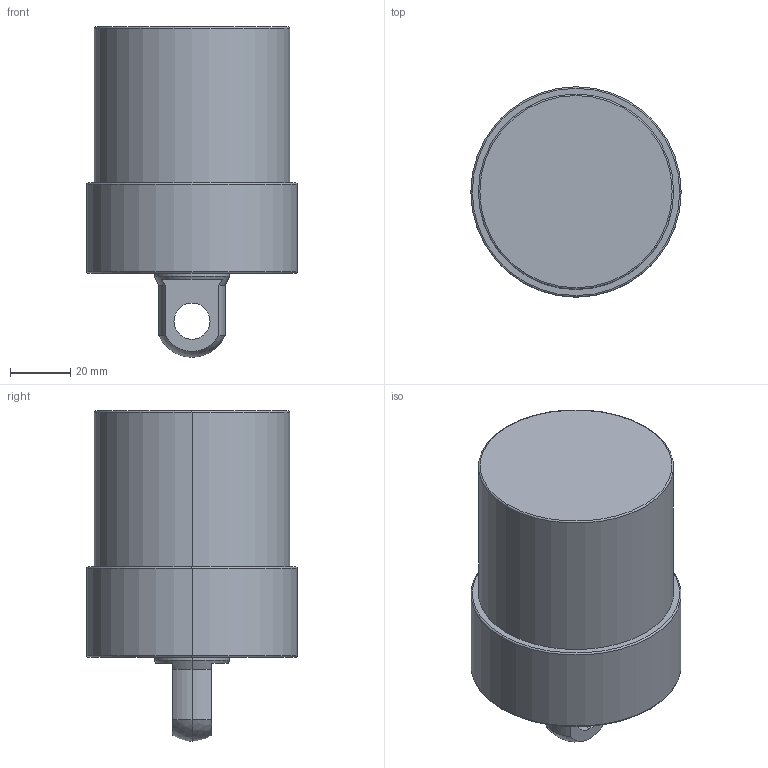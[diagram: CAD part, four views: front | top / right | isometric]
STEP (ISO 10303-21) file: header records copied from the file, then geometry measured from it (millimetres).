
FILE_DESCRIPTION (( 'STEP AP203' ), '1' );
FILE_NAME ('CLLU-065GP-035.STEP', '2020-01-06T09:21:44', ( '' ), ( '' ), 'SwSTEP 2.0', 'SolidWorks 2015', '' );
FILE_SCHEMA (( 'CONFIG_CONTROL_DESIGN' ));
Length unit declared in the file: millimetre
Products named in the file (1): CLLU-065GP-035
Bounding box: 70 x 70 x 110 mm (x, y, z)
Volume: 292193.7 mm3; surface area: 27713.7 mm2
Topology: 1 solids, 1 shells, 58 faces, 131 edges, 75 vertices
Faces by surface type: cylinder 23, cone 18, plane 9, torus 6, sphere 2
Entity records: 1658 total; most frequent: DIRECTION 311, CARTESIAN_POINT 269, ORIENTED_EDGE 246, AXIS2_PLACEMENT_3D 133, EDGE_CURVE 123, VERTEX_POINT 75, CIRCLE 74, EDGE_LOOP 68
